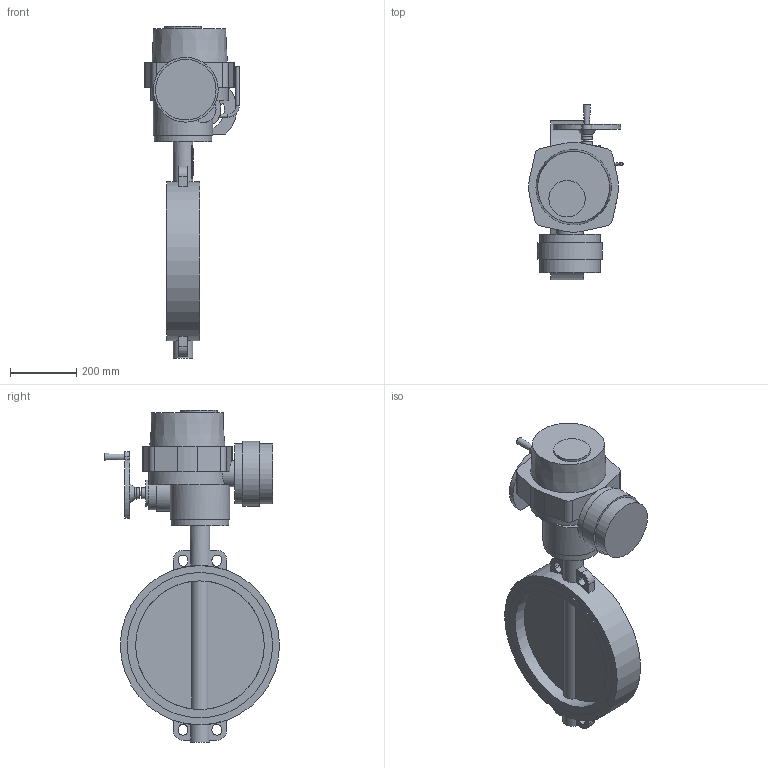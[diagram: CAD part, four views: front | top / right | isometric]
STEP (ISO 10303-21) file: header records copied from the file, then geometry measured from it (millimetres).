
FILE_DESCRIPTION(('STEP AP203'), '1');
FILE_NAME('Çàòâîð 017W.Z(ñòàëü) DN400+ÝÏ QT.A120', '', ('UNSPECIFIED'), ('UNSPECIFIED'), 'ASCON STEP Converter 1.6', 'ASCON Math Kernel', '');
FILE_SCHEMA(('CONFIG_CONTROL_DESIGN'));
Length unit declared in the file: millimetre
Bounding box: 285.64 x 530 x 1005 mm (x, y, z)
Volume: 28690652.7 mm3; surface area: 1278775.9 mm2
Topology: 1 solids, 1 shells, 857 faces, 2418 edges, 1607 vertices
Faces by surface type: cylinder 620, plane 233, cone 3, torus 1
Full cylindrical faces by diameter (mm): 10 x6, 16 x1, 18 x4, 32 x2, 35 x1, 60 x2, 80 x2, 100 x1, 110 x1, 175 x1, 180 x1, 183 x2, 196 x1, 389.6 x2, 440 x2, 482 x1
Entity records: 36235 total; most frequent: CARTESIAN_POINT 6001, DIRECTION 5364, ORIENTED_EDGE 4768, EDGE_CURVE 2384, AXIS2_PLACEMENT_3D 2142, VERTEX_POINT 1607, CIRCLE 1284, LINE 1080
